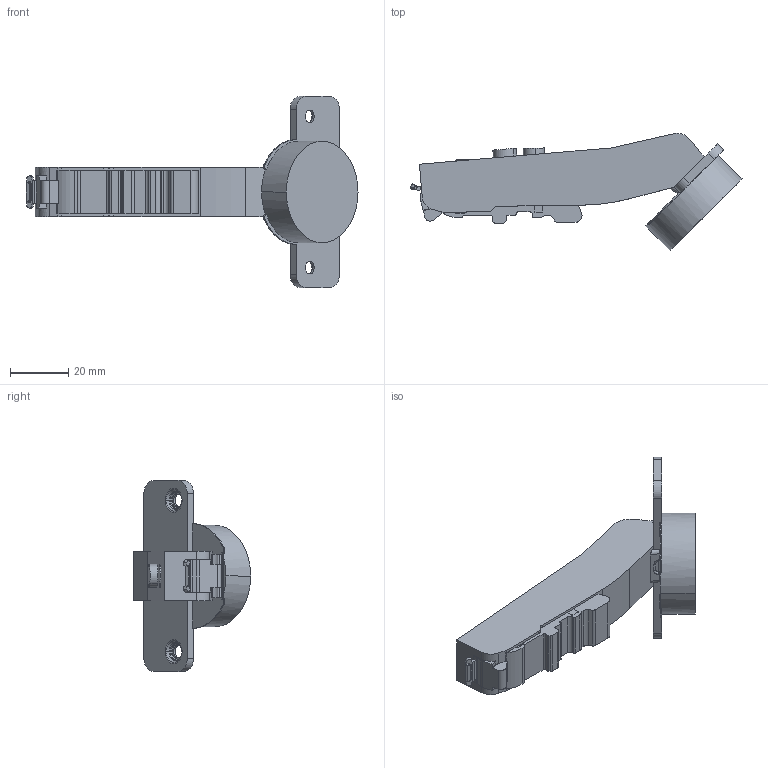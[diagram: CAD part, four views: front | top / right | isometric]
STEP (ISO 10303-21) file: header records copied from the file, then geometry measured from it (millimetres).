
FILE_DESCRIPTION (( 'STEP AP203' ), '1' );
FILE_NAME ('C81E876FAB DTC 3D CLOSE.STEP', '2024-07-20T08:49:28', ( '微软用户' ), ( '微软中国' ), 'SwSTEP 2.0', 'SolidWorks 2021', '' );
FILE_SCHEMA (( 'CONFIG_CONTROL_DESIGN' ));
Length unit declared in the file: millimetre
Products named in the file (1): C81E876FAB DTC 3D CLOSE
Bounding box: 113.99 x 40.25 x 65.6 mm (x, y, z)
Volume: 46238 mm3; surface area: 12824 mm2
Topology: 1 solids, 1 shells, 258 faces, 724 edges, 472 vertices
Faces by surface type: cylinder 115, plane 101, torus 26, bspline 12, cone 4
Entity records: 8600 total; most frequent: CARTESIAN_POINT 1804, ORIENTED_EDGE 1448, DIRECTION 1422, EDGE_CURVE 724, AXIS2_PLACEMENT_3D 517, VERTEX_POINT 472, LINE 388, VECTOR 388
